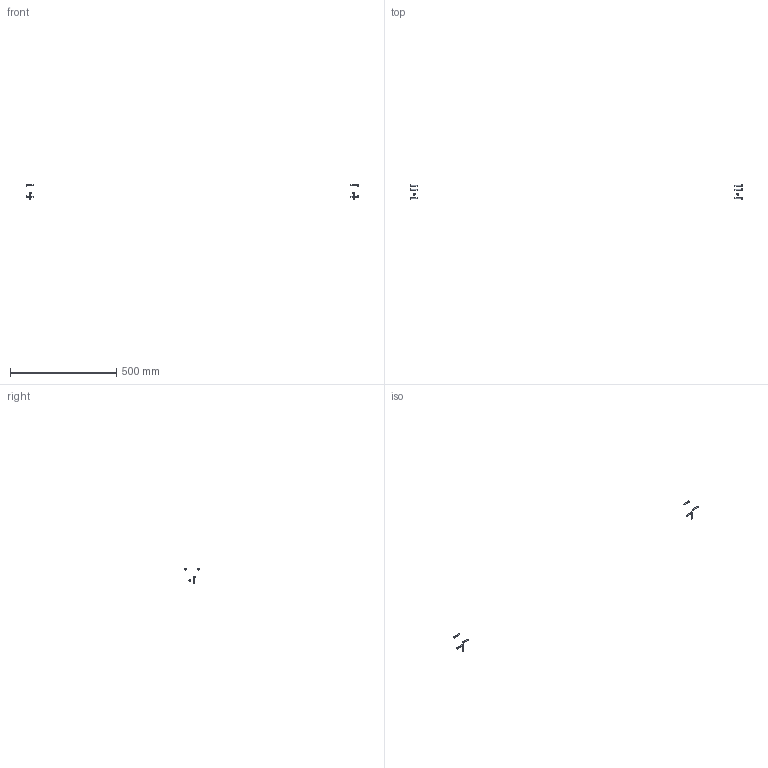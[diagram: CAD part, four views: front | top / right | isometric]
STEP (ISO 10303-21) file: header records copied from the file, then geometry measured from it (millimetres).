
FILE_DESCRIPTION(/* description */ (''),/* implementation_level */ '2;1');
FILE_NAME(/* name */ 'Y-0F3A~1',/* time_stamp */ '2014-02-14T19:37:21+01:00',/* author */ (''),/* organization */ (''),/* preprocessor_version */ 'ST-DEVELOPER v14',/* originating_system */ '',/* authorisation */ '');
FILE_SCHEMA (('AUTOMOTIVE_DESIGN'));
Length unit declared in the file: millimetre
Products named in the file (2): Document; screw DIN7984-like, low, M5x30
Assembly tree (4 placements, depth 2):
  Document
    screw DIN7984-like, low, M5x30  x4
Bounding box: 1565 x 68.5 x 73.24 mm (x, y, z)
Volume: 6128.4 mm3; surface area: 5609 mm2
Topology: 8 solids, 8 shells, 200 faces, 472 edges, 288 vertices
Faces by surface type: plane 120, bspline 80
Entity records: 7728 total; most frequent: CARTESIAN_POINT 3872, B_SPLINE_CURVE_WITH_KNOTS 645, ORIENTED_EDGE 570, PCURVE 570, DEFINITIONAL_REPRESENTATION 570, SURFACE_CURVE 285, EDGE_CURVE 285, VERTEX_POINT 180
